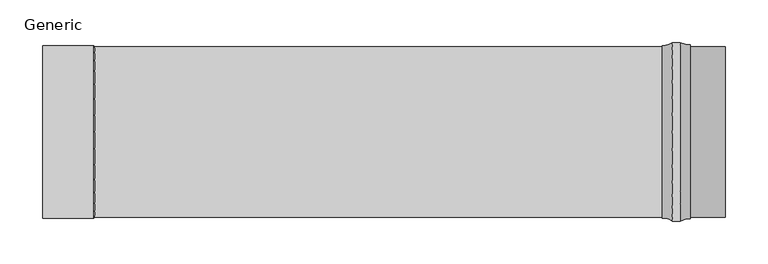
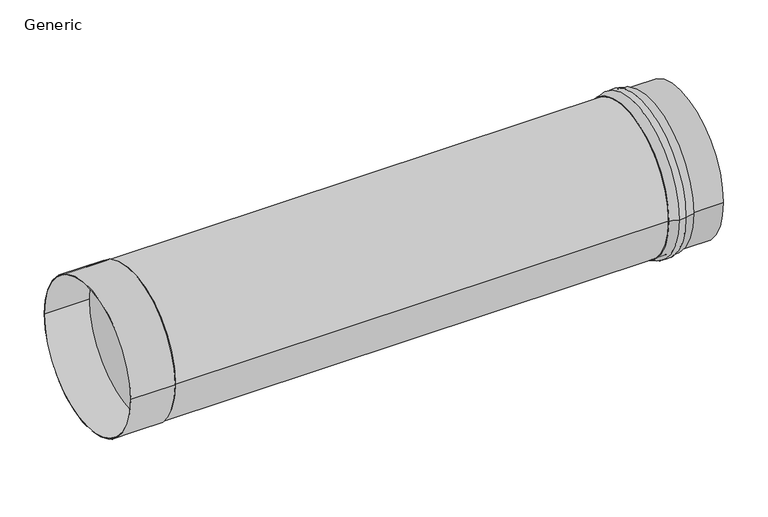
"""IFC4 building model written with IfcOpenShell, lengths in millimetres: pipe fitting geometry, CADS_Jeremias_Length_Socket : Generic."""

from ifc_helpers import new_model, si_unit, point, frame, origin, origin_2d, place, context, project, spatial, polyline, circle_curve, ellipse_curve, trimmed, segment, composite_curve, outline, extrude, source, transform, mapped, element, save
from ifc_brep_helpers import plane_surface, cylinder_surface, revolved_surface, advanced_brep


def generic_e4afd2ad(model_context):
    return source(origin(), model_context, "Body", "SolidModel", [
        advanced_brep(
        [(819.0, 100.0, 0.0), (819.0, 101.9765092, 0.0), (819.0, -101.9765092, 0.0), (819.0, -100.0, 0.0), (786.0, 100.0, 0.0), (786.0, -100.0, 0.0), (786.0, 100.9881891, 0.0), (786.0, -100.9881891, 0.0), (798.0, 104.4883201, 0.0), (798.0, -104.4883201, 0.0), (807.0, 104.4883201, 0.0), (807.0, -104.4883201, 0.0)],
        [
            (0, 1),
            (1, 2, circle_curve(frame((819.0, 0.0, 0.0), z_axis=(1.0, 0.0, 0.0), x_axis=(0.0, -1.0, 0.0)), 101.9765092)),
            (2, 3),
            (3, 0, circle_curve(frame((819.0, 0.0, 0.0), z_axis=(-1.0, 0.0, 0.0), x_axis=(0.0, -1.0, 0.0)), 100.0)),
            (2, 1, circle_curve(frame((819.0, 0.0, 0.0), z_axis=(1.0, 0.0, 0.0), x_axis=(0.0, -1.0, 0.0)), 101.9765092)),
            (0, 3, circle_curve(frame((819.0, 0.0, 0.0), z_axis=(-1.0, 0.0, 0.0), x_axis=(0.0, -1.0, 0.0)), 100.0)),
            (4, 0),
            (3, 5),
            (5, 4, circle_curve(frame((786.0, 0.0, 0.0), z_axis=(-1.0, 0.0, 0.0), x_axis=(0.0, -1.0, 0.0)), 100.0)),
            (4, 5, circle_curve(frame((786.0, 0.0, 0.0), z_axis=(-1.0, 0.0, 0.0), x_axis=(0.0, -1.0, 0.0)), 100.0)),
            (6, 4),
            (5, 7),
            (7, 6, circle_curve(frame((786.0, 0.0, 0.0), z_axis=(-1.0, 0.0, 0.0), x_axis=(0.0, -1.0, 0.0)), 100.9881891)),
            (6, 7, circle_curve(frame((786.0, 0.0, 0.0), z_axis=(-1.0, 0.0, 0.0), x_axis=(0.0, -1.0, 0.0)), 100.9881891)),
            (8, 6, circle_curve(frame((786.0, 123.3089134, 0.0), z_axis=(0.0, 0.0, -1.0), x_axis=(-1.0, 0.0, 0.0)), 22.3207242)),
            (7, 9, circle_curve(frame((786.0, -123.3089134, 0.0), z_axis=(0.0, 0.0, -1.0), x_axis=(-1.0, 0.0, 0.0)), 22.3207242)),
            (9, 8, circle_curve(frame((798.0, 0.0, 0.0), z_axis=(-1.0, 0.0, 0.0), x_axis=(0.0, -1.0, 0.0)), 104.4883201)),
            (8, 9, circle_curve(frame((798.0, 0.0, 0.0), z_axis=(-1.0, 0.0, 0.0), x_axis=(0.0, -1.0, 0.0)), 104.4883201)),
            (10, 8),
            (9, 11),
            (11, 10, circle_curve(frame((807.0, 0.0, 0.0), z_axis=(-1.0, 0.0, 0.0), x_axis=(0.0, -1.0, 0.0)), 104.4883201)),
            (10, 11, circle_curve(frame((807.0, 0.0, 0.0), z_axis=(-1.0, 0.0, 0.0), x_axis=(0.0, -1.0, 0.0)), 104.4883201)),
            (1, 10, circle_curve(frame((819.0, 131.8969932, 0.0), z_axis=(0.0, 0.0, -1.0), x_axis=(-1.0, 0.0, 0.0)), 29.920484)),
            (11, 2, circle_curve(frame((819.0, -131.8969932, 0.0), z_axis=(0.0, 0.0, -1.0), x_axis=(-1.0, 0.0, 0.0)), 29.920484)),
        ],
        [
            plane_surface(frame((819.0, 0.0, 0.0), z_axis=(1.0, 0.0, 0.0), x_axis=(0.0, -1.0, 0.0))),
            revolved_surface(polyline([(819.0, -100.0, 0.0), (786.0, -100.0, 0.0)]), (-1137.5, 0.0, 0.0), (1.0, 0.0, 0.0)),
            plane_surface(frame((786.0, 0.0, 0.0), z_axis=(-1.0, 0.0, 0.0), x_axis=(0.0, -1.0, 0.0))),
            revolved_surface(trimmed(ellipse_curve(frame((786.0, -123.3089134, 0.0), z_axis=(0.0, 0.0, -1.0), x_axis=(-1.0, 0.0, 0.0)), 22.3207242, 22.3207242), [point((786.0, -100.9881891, 0.0))], [point((798.0, -104.4883201, 0.0))], True, "CARTESIAN"), (-1137.5, 0.0, 0.0), (1.0, 0.0, 0.0)),
            cylinder_surface(frame((-1137.5, 0.0, 0.0), z_axis=(1.0, 0.0, 0.0), x_axis=(0.0, -1.0, 0.0)), 104.4883201),
            revolved_surface(trimmed(ellipse_curve(frame((819.0, -131.8969932, 0.0), z_axis=(0.0, 0.0, -1.0), x_axis=(-1.0, 0.0, 0.0)), 29.920484, 29.920484), [point((807.0, -104.4883201, 0.0))], [point((819.0, -101.9765092, 0.0))], True, "CARTESIAN"), (-1137.5, 0.0, 0.0), (1.0, 0.0, 0.0)),
        ],
        [
            (0, [[1, 2, 3, 4]]),
            (0, [[-3, 5, -1, 6]]),
            (1, [[7, -4, 8, 9]]),
            (1, [[-8, -6, -7, 10]]),
            (2, [[11, -9, 12, 13]]),
            (2, [[-12, -10, -11, 14]]),
            (3, [[15, -13, 16, 17]]),
            (3, [[-16, -14, -15, 18]]),
            (4, [[19, -17, 20, 21]]),
            (4, [[-20, -18, -19, 22]]),
            (5, [[23, -21, 24, -2]]),
            (5, [[-24, -22, -23, -5]]),
        ],
    ),
        advanced_brep(
        [(60.0, 100.0, 0.0), (60.0, -100.0, 0.0), (121.0, -100.0, 0.0), (121.0, 100.0, 0.0), (120.0, -101.0, 0.0), (120.0, 101.0, 0.0), (60.0, -101.0, 0.0), (60.0, 101.0, 0.0)],
        [
            (0, 1, circle_curve(frame((60.0, 0.0, 0.0), z_axis=(-1.0, 0.0, 0.0), x_axis=(0.0, -1.0, 0.0)), 100.0)),
            (1, 2),
            (2, 3, circle_curve(frame((121.0, 0.0, 0.0), z_axis=(1.0, 0.0, 0.0), x_axis=(0.0, -1.0, 0.0)), 100.0)),
            (3, 0),
            (2, 4),
            (4, 5, circle_curve(frame((120.0, 0.0, 0.0), z_axis=(1.0, 0.0, 0.0), x_axis=(0.0, -1.0, 0.0)), 101.0)),
            (5, 3),
            (4, 6),
            (6, 7, circle_curve(frame((60.0, 0.0, 0.0), z_axis=(1.0, 0.0, 0.0), x_axis=(0.0, -1.0, 0.0)), 101.0)),
            (7, 5),
            (1, 0, circle_curve(frame((60.0, 0.0, 0.0), z_axis=(-1.0, 0.0, 0.0), x_axis=(0.0, 1.0, 0.0)), 100.0)),
            (3, 2, circle_curve(frame((121.0, 0.0, 0.0), z_axis=(1.0, 0.0, 0.0), x_axis=(0.0, 1.0, 0.0)), 100.0)),
            (5, 4, circle_curve(frame((120.0, 0.0, 0.0), z_axis=(1.0, 0.0, 0.0), x_axis=(0.0, 1.0, 0.0)), 101.0)),
            (7, 6, circle_curve(frame((60.0, 0.0, 0.0), z_axis=(1.0, 0.0, 0.0), x_axis=(0.0, 1.0, 0.0)), 101.0)),
        ],
        [
            revolved_surface(polyline([(121.0, -100.0, 0.0), (60.0, -100.0, 0.0)]), (60.0, 0.0, 0.0), (1.0, 0.0, 0.0)),
            revolved_surface(polyline([(120.0, -101.0, 0.0), (121.0, -100.0, 0.0)]), (60.0, 0.0, 0.0), (1.0, 0.0, 0.0)),
            cylinder_surface(frame((60.0, 0.0, 0.0), z_axis=(1.0, 0.0, 0.0), x_axis=(0.0, -1.0, 0.0)), 101.0),
            revolved_surface(polyline([(121.0, 100.0, 0.0), (60.0, 100.0, 0.0)]), (60.0, 0.0, 0.0), (1.0, 0.0, 0.0)),
            revolved_surface(polyline([(120.0, 101.0, 0.0), (121.0, 100.0, 0.0)]), (60.0, 0.0, 0.0), (1.0, 0.0, 0.0)),
            cylinder_surface(frame((60.0, 0.0, 0.0), z_axis=(1.0, 0.0, 0.0), x_axis=(0.0, 1.0, 0.0)), 101.0),
            plane_surface(frame((60.0, 0.0, 0.0), z_axis=(-1.0, 0.0, 0.0), x_axis=(0.0, 1.0, 0.0))),
        ],
        [
            (0, [[1, 2, 3, 4]]),
            (1, [[-3, 5, 6, 7]]),
            (2, [[-6, 8, 9, 10]]),
            (3, [[11, -4, 12, -2]]),
            (4, [[-12, -7, 13, -5]]),
            (5, [[-13, -10, 14, -8]]),
            (6, [[-14, -9], [-11, -1]]),
        ],
    ),
        extrude(outline(composite_curve([segment(trimmed(circle_curve(origin_2d(), 100.0), [point((-100.0, 0.0))], [point((100.0, 0.0))], False, "CARTESIAN"), True, "CONTINUOUS"), segment(trimmed(circle_curve(origin_2d(), 100.0), [point((100.0, 0.0))], [point((-100.0, 0.0))], False, "CARTESIAN"), True, "CONTINUOUS")], self_intersect=False)), frame((800.0, 0.0, 0.0), z_axis=(1.0, 0.0, 0.0), x_axis=(0.0, 1.0, 0.0)), (0.0, 0.0, 1.0), 60.0),
        extrude(outline(composite_curve([segment(trimmed(circle_curve(origin_2d(), 100.0), [point((100.0, 0.0))], [point((-100.0, 0.0))], False, "CARTESIAN"), True, "CONTINUOUS"), segment(trimmed(circle_curve(origin_2d(), 100.0), [point((-100.0, 0.0))], [point((100.0, 0.0))], False, "CARTESIAN"), True, "CONTINUOUS")], self_intersect=False)), frame((120.0, 0.0, 0.0), z_axis=(1.0, 0.0, 0.0), x_axis=(0.0, 1.0, 0.0)), (0.0, 0.0, 1.0), 680.0),
    ])


if __name__ == "__main__":
    model = new_model("IFC4")
    model_context = context("Model", 3, world=origin())
    ifc_project = project(units=[si_unit("LENGTHUNIT", "METRE", prefix="MILLI")], contexts=[model_context])
    site = spatial("IfcSite", under=ifc_project)
    building = spatial("IfcBuilding", under=site)
    placement = place(None, origin())
    generic_shape = generic_e4afd2ad(model_context)
    element("IfcPipeFitting", 1, ObjectType="CADS_Jeremias_Length_Socket : Generic", at=placement, inside=building, context=model_context, shape_type="MappedRepresentation", body=[
        mapped(generic_shape, transform((0.0, 0.0, 0.0), x_axis=(1.0, 0.0, 0.0), y_axis=(0.0, 1.0, 0.0), z_axis=(0.0, 0.0, 1.0))),
    ])
    save(model, "model.ifc")
